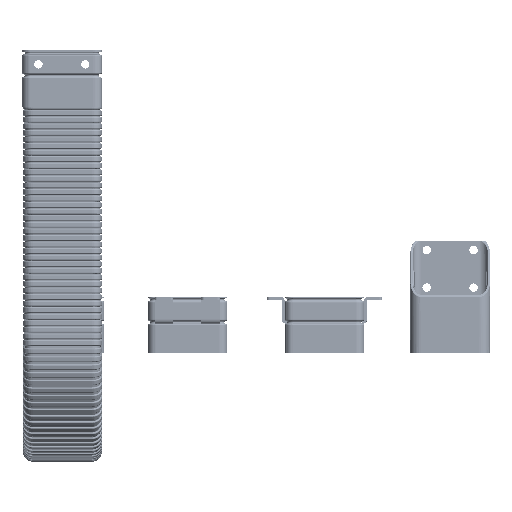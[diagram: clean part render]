
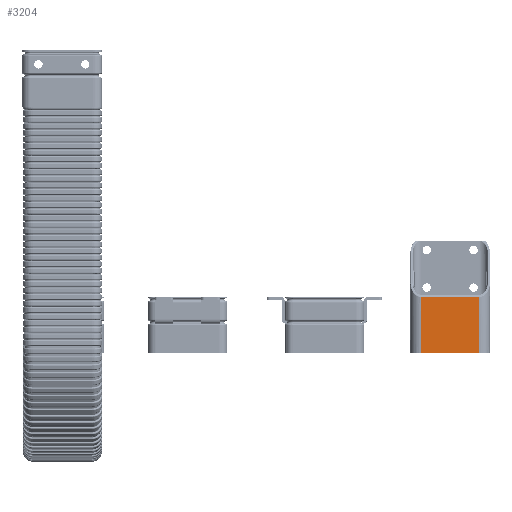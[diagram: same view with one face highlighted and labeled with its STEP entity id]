
A CAD part, top view. The second image highlights one B-rep face of the part: STEP entity #3204.
In plain terms, the highlighted planar face has unit normal (0, 0, 1) as drawn and (0, 1, 0) by its records, which use the part's own axes.
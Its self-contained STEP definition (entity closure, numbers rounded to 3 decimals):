
#2893=CARTESIAN_POINT('',(-41.381,42.5,0.5));
#2894=VERTEX_POINT('',#2893);
#2902=CARTESIAN_POINT('',(20.619,42.5,0.5));
#2903=VERTEX_POINT('',#2902);
#2904=CARTESIAN_POINT('',(-41.381,42.5,0.5));
#2905=DIRECTION('',(1.0,0.0,0.0));
#2906=VECTOR('',#2905,62.);
#2907=LINE('',#2904,#2906);
#2908=EDGE_CURVE('',#2894,#2903,#2907,.T.);
#3162=CARTESIAN_POINT('',(20.619,42.5,59.841));
#3163=VERTEX_POINT('',#3162);
#3164=CARTESIAN_POINT('',(20.619,42.5,0.5));
#3165=DIRECTION('',(0.0,0.0,1.0));
#3166=VECTOR('',#3165,59.341);
#3167=LINE('',#3164,#3166);
#3168=EDGE_CURVE('',#2903,#3163,#3167,.T.);
#3181=CARTESIAN_POINT('',(-41.381,42.5,0.0));
#3182=DIRECTION('',(0.0,1.0,0.0));
#3183=DIRECTION('',(0.0,0.0,1.0));
#3184=AXIS2_PLACEMENT_3D('',#3181,#3182,#3183);
#3185=PLANE('',#3184);
#3186=ORIENTED_EDGE('',*,*,#2908,.F.);
#3187=CARTESIAN_POINT('',(-41.381,42.5,59.841));
#3188=VERTEX_POINT('',#3187);
#3189=CARTESIAN_POINT('',(-41.381,42.5,0.5));
#3190=DIRECTION('',(0.0,0.0,1.0));
#3191=VECTOR('',#3190,59.341);
#3192=LINE('',#3189,#3191);
#3193=EDGE_CURVE('',#2894,#3188,#3192,.T.);
#3194=ORIENTED_EDGE('',*,*,#3193,.T.);
#3195=CARTESIAN_POINT('',(20.619,42.5,59.841));
#3196=DIRECTION('',(-1.0,0.0,0.0));
#3197=VECTOR('',#3196,62.);
#3198=LINE('',#3195,#3197);
#3199=EDGE_CURVE('',#3163,#3188,#3198,.T.);
#3200=ORIENTED_EDGE('',*,*,#3199,.F.);
#3201=ORIENTED_EDGE('',*,*,#3168,.F.);
#3202=EDGE_LOOP('',(#3186,#3194,#3200,#3201));
#3203=FACE_OUTER_BOUND('',#3202,.T.);
#3204=ADVANCED_FACE('',(#3203),#3185,.T.);
